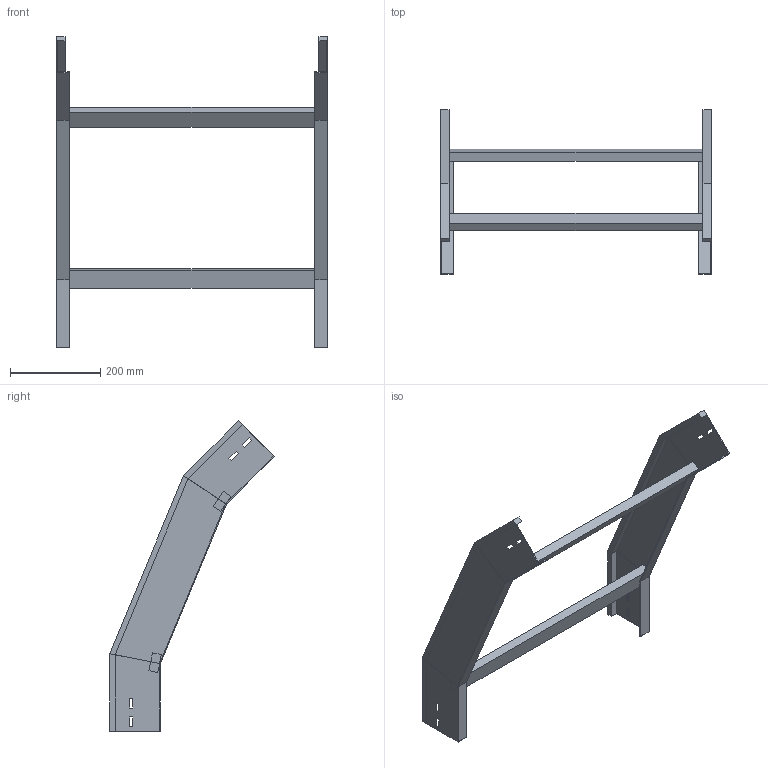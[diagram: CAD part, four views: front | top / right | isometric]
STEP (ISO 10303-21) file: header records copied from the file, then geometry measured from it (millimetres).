
FILE_DESCRIPTION (( 'STEP AP214' ), '1' );
FILE_NAME ('34B5J600.step', '2025-02-21T14:52:50', ( '' ), ( '' ), 'SwSTEP 2.0', 'SolidWorks 2023', '' );
FILE_SCHEMA (( 'AUTOMOTIVE_DESIGN' ));
Length unit declared in the file: millimetre
Products named in the file (3): TRAVERSINO_600; 34B5J600; LONGH.DISCESA_45°_H112.5_R500
Assembly tree (5 placements, depth 2):
  34B5J600
    LONGH.DISCESA_45°_H112.5_R500  x2
    TRAVERSINO_600  x3
Bounding box: 600 x 365.13 x 689.46 mm (x, y, z)
Volume: 2136496.3 mm3; surface area: 672366.6 mm2
Topology: 5 solids, 5 shells, 102 faces, 244 edges, 152 vertices
Faces by surface type: plane 102
Entity records: 1480 total; most frequent: CARTESIAN_POINT 244, ORIENTED_EDGE 232, DIRECTION 228, LINE 116, EDGE_CURVE 116, VECTOR 116, VERTEX_POINT 72, EDGE_LOOP 56
